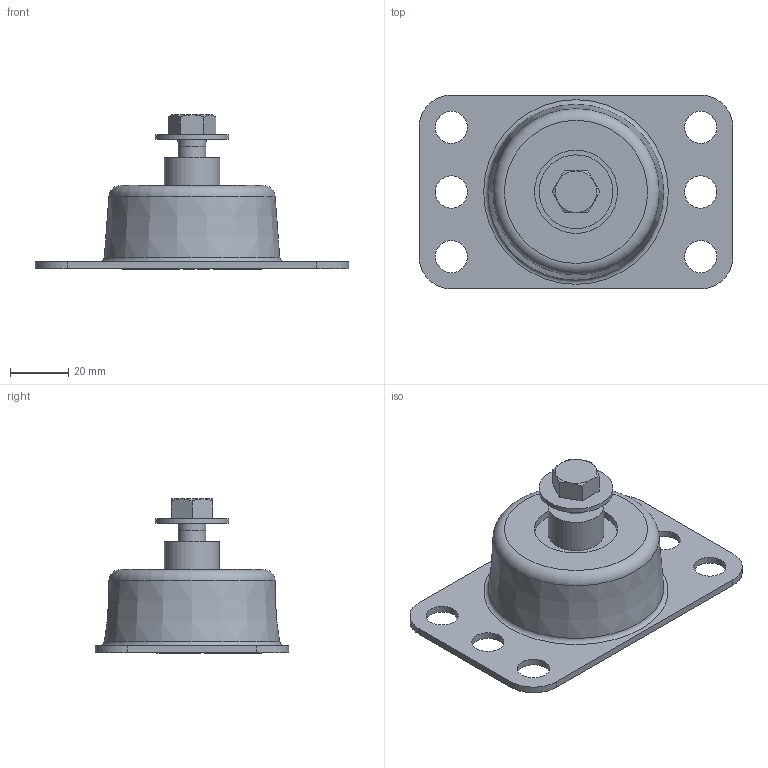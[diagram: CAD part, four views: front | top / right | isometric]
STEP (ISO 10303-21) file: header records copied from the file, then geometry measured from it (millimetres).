
FILE_DESCRIPTION(/* description */ (''),/* implementation_level */ '2;1');
FILE_NAME(/* name */ '\\Mleuckthor2\cad-proe_solids\WEBSITE FILES 05.22.13\STEP\RAA, RBA, RCA, RDA\RAA.stp',/* time_stamp */ '2016-01-15T16:29:58-05:00',/* author */ ('rramoutar'),/* organization */ ('Mason Industries Inc.'),/* preprocessor_version */ 'ST-DEVELOPER v15.6',/* originating_system */ 'Autodesk Inventor 2015',/* authorisation */ '');
FILE_SCHEMA (('CONFIG_CONTROL_DESIGN'));
Length unit declared in the file: inch
Products named in the file (1): RAA NEOPRENE MOUNT A-30927-1
Bounding box: 107.95 x 66.67 x 53.06 mm (x, y, z)
Volume: 83608.5 mm3; surface area: 47672.5 mm2
Topology: 6 solids, 6 shells, 330 faces, 835 edges, 551 vertices
Faces by surface type: plane 196, bspline 86, cylinder 21, cone 16, torus 11
Full cylindrical faces by diameter (mm): 7.798 x1, 9.525 x1, 10.312 x1, 11.112 x6, 14.275 x1, 19.05 x2, 19.844 x1, 25.4 x1, 28.575 x1, 30.162 x2
Entity records: 10758 total; most frequent: CARTESIAN_POINT 3147, ORIENTED_EDGE 1576, DIRECTION 1176, EDGE_CURVE 788, VERTEX_POINT 542, LINE 522, VECTOR 522, EDGE_LOOP 424
